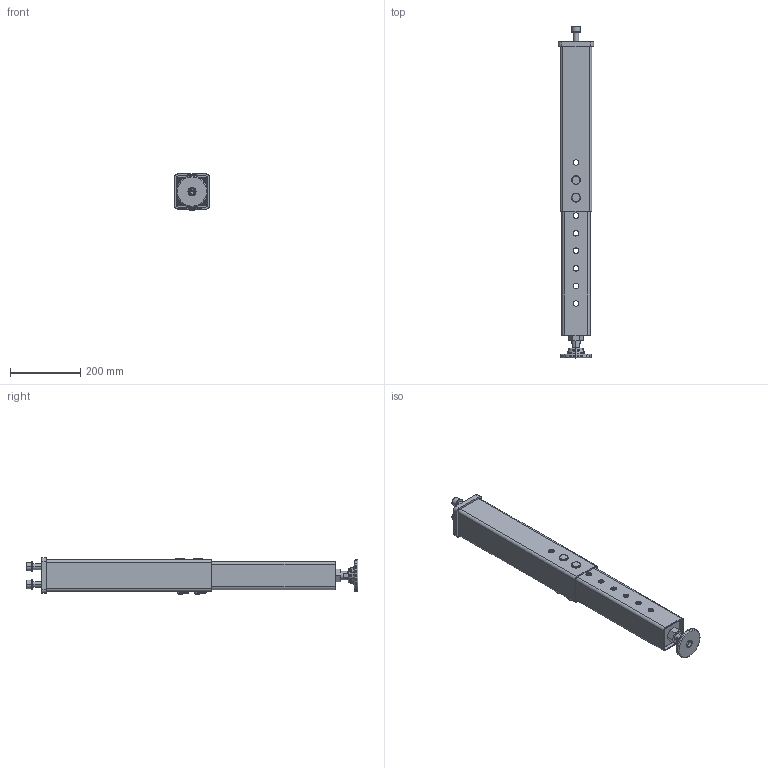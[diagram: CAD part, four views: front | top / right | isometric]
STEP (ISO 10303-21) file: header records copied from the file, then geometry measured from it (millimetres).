
FILE_DESCRIPTION (( 'STEP AP203' ), '1' );
FILE_NAME ('280877.STEP', '2020-07-07T08:35:15', ( '' ), ( '' ), 'SwSTEP 2.0', 'SolidWorks 2019', '' );
FILE_SCHEMA (( 'CONFIG_CONTROL_DESIGN' ));
Length unit declared in the file: millimetre
Products named in the file (16): Platte oben^280877.X Schweißteil Fuß oben; Aufnahme Fussspindel^280877.X Schweißteil Fuß unten; Fussteller^280855.X.1 Fußteller mit Spindel; ISO 4762 - M12 x 25 - verzinkt_0; 280877.X Schweißteil Fuß unten; ISO 4762 - M16 x 50 - verzinkt_0; 280877.X Schweißteil Fuß oben; Bolzen für Höhenverst. ExtremeFuß; Federstecker; Innenrohr^280877.X Schweißteil Fuß unten_Standard<Wie bearbeitet>; Federring DIN 127 B - 16 - verzinkt;  Hohlprofil 90x90x4^280877.X Schweißteil Fuß oben_Standard<Wie bearbeitet>; 280855.X.1 Fußteller mit Spindel_Einfach; 280877; ISO 8673 M24x1,5-verzinkt_0; M 24x1,5 Spindel 100^280855.X.1 Fußteller mit Spindel_ohne gew
Assembly tree (19 placements, depth 3):
  280877
    280877.X Schweißteil Fuß oben
       Hohlprofil 90x90x4^280877.X Schweißteil Fuß oben_Standard<Wie bearbeitet>
      Platte oben^280877.X Schweißteil Fuß oben
    280877.X Schweißteil Fuß unten
      Innenrohr^280877.X Schweißteil Fuß unten_Standard<Wie bearbeitet>
      Aufnahme Fussspindel^280877.X Schweißteil Fuß unten
    280855.X.1 Fußteller mit Spindel_Einfach
      M 24x1,5 Spindel 100^280855.X.1 Fußteller mit Spindel_ohne gew
      Fussteller^280855.X.1 Fußteller mit Spindel
      ISO 4762 - M12 x 25 - verzinkt_0
    Bolzen für Höhenverst. ExtremeFuß  x2
    Federstecker  x2
    ISO 4762 - M16 x 50 - verzinkt_0  x2
    Federring DIN 127 B - 16 - verzinkt  x2
    ISO 8673 M24x1,5-verzinkt_0
Bounding box: 100 x 944.5 x 102.5 mm (x, y, z)
Volume: 1501206.7 mm3; surface area: 694948.9 mm2
Topology: 16 solids, 16 shells, 361 faces, 847 edges, 512 vertices
Faces by surface type: cylinder 134, plane 116, torus 56, cone 55
Entity records: 10493 total; most frequent: CARTESIAN_POINT 1702, DIRECTION 1613, ORIENTED_EDGE 1354, EDGE_CURVE 677, AXIS2_PLACEMENT_3D 654, VERTEX_POINT 419, EDGE_LOOP 352, CIRCLE 342
